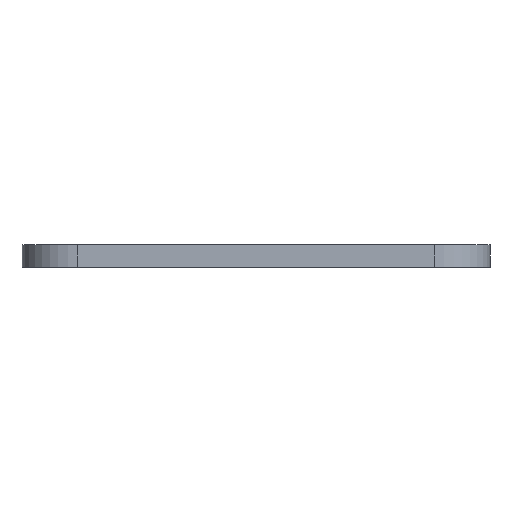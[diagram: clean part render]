
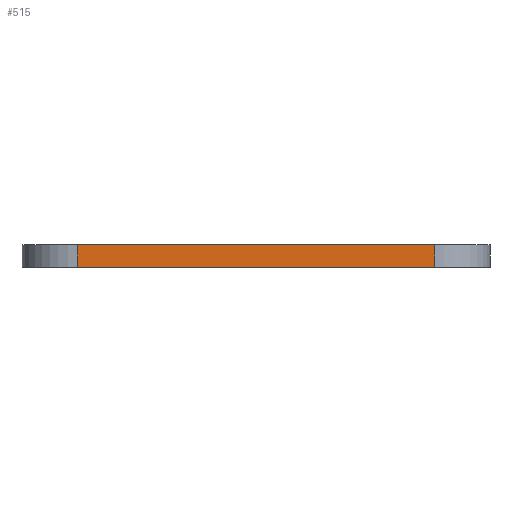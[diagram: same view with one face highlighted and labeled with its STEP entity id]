
A CAD part, left-side view. The second image highlights one B-rep face of the part: STEP entity #515.
In plain terms, the highlighted planar face has unit normal (-1, 0, 0).
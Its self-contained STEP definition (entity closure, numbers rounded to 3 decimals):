
#48 = CARTESIAN_POINT ( 'NONE',  ( -31.75, 24.25, 3. ) ) ;
#81 = CARTESIAN_POINT ( 'NONE',  ( -31.75, 24.25, 3. ) ) ;
#122 = CARTESIAN_POINT ( 'NONE',  ( -31.75, -24.25, 0. ) ) ;
#123 = VECTOR ( 'NONE', #1023, 1000. ) ;
#137 = VERTEX_POINT ( 'NONE', #1049 ) ;
#160 = DIRECTION ( 'NONE',  ( 0., -1., 0. ) ) ;
#209 = PLANE ( 'NONE',  #450 ) ;
#256 = LINE ( 'NONE', #644, #1029 ) ;
#266 = DIRECTION ( 'NONE',  ( 0., 0., -1. ) ) ;
#290 = VERTEX_POINT ( 'NONE', #873 ) ;
#317 = ORIENTED_EDGE ( 'NONE', *, *, #1056, .F. ) ;
#346 = EDGE_LOOP ( 'NONE', ( #542, #473, #317, #439 ) ) ;
#400 = EDGE_CURVE ( 'NONE', #290, #617, #256, .T. ) ;
#439 = ORIENTED_EDGE ( 'NONE', *, *, #783, .T. ) ;
#441 = LINE ( 'NONE', #81, #1073 ) ;
#450 = AXIS2_PLACEMENT_3D ( 'NONE', #48, #747, #844 ) ;
#473 = ORIENTED_EDGE ( 'NONE', *, *, #1046, .F. ) ;
#515 = ADVANCED_FACE ( 'NONE', ( #1036 ), #209, .F. ) ;
#542 = ORIENTED_EDGE ( 'NONE', *, *, #400, .T. ) ;
#617 = VERTEX_POINT ( 'NONE', #122 ) ;
#644 = CARTESIAN_POINT ( 'NONE',  ( -31.75, 24.25, 0. ) ) ;
#675 = CARTESIAN_POINT ( 'NONE',  ( -31.75, 24.25, 3. ) ) ;
#679 = VERTEX_POINT ( 'NONE', #1057 ) ;
#747 = DIRECTION ( 'NONE',  ( 1., 0., 0. ) ) ;
#754 = LINE ( 'NONE', #994, #907 ) ;
#783 = EDGE_CURVE ( 'NONE', #679, #290, #441, .T. ) ;
#844 = DIRECTION ( 'NONE',  ( 0., 1., 0. ) ) ;
#862 = LINE ( 'NONE', #675, #123 ) ;
#873 = CARTESIAN_POINT ( 'NONE',  ( -31.75, 24.25, 0. ) ) ;
#907 = VECTOR ( 'NONE', #919, 1000. ) ;
#919 = DIRECTION ( 'NONE',  ( 0., 0., -1. ) ) ;
#994 = CARTESIAN_POINT ( 'NONE',  ( -31.75, -24.25, 3. ) ) ;
#1023 = DIRECTION ( 'NONE',  ( 0., -1., 0. ) ) ;
#1029 = VECTOR ( 'NONE', #160, 1000. ) ;
#1036 = FACE_OUTER_BOUND ( 'NONE', #346, .T. ) ;
#1046 = EDGE_CURVE ( 'NONE', #137, #617, #754, .T. ) ;
#1049 = CARTESIAN_POINT ( 'NONE',  ( -31.75, -24.25, 3. ) ) ;
#1056 = EDGE_CURVE ( 'NONE', #679, #137, #862, .T. ) ;
#1057 = CARTESIAN_POINT ( 'NONE',  ( -31.75, 24.25, 3. ) ) ;
#1073 = VECTOR ( 'NONE', #266, 1000. ) ;
